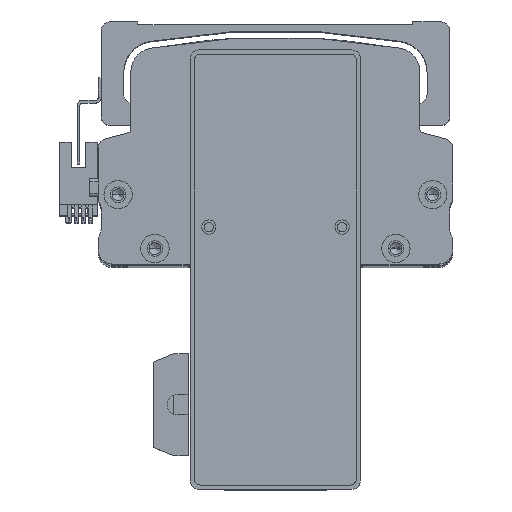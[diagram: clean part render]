
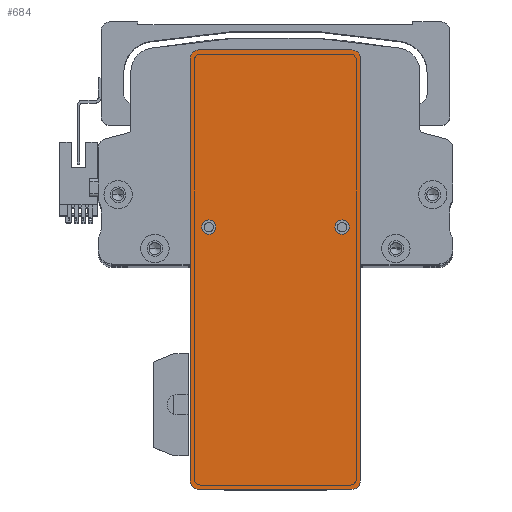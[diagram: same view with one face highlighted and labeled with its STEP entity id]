
A CAD part, top view. The second image highlights one B-rep face of the part: STEP entity #684.
In plain terms, the highlighted planar face has unit normal (0, 0, 1) as drawn and (0, 0, -1) by its records, which use the part's own axes.
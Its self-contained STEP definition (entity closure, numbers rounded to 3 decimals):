
#56 = EDGE_CURVE ( 'NONE', #336, #32804, #69416, .T. ) ;
#171 = DIRECTION ( 'NONE',  ( 0., -1., 0. ) ) ;
#336 = VERTEX_POINT ( 'NONE', #46033 ) ;
#469 = DIRECTION ( 'NONE',  ( -1., 0., 0. ) ) ;
#570 = CARTESIAN_POINT ( 'NONE',  ( 74.5, -27., 0. ) ) ;
#684 = ADVANCED_FACE ( 'NONE', ( #32865, #14717, #63493 ), #61702, .F. ) ;
#1523 = ORIENTED_EDGE ( 'NONE', *, *, #45754, .F. ) ;
#2086 = VERTEX_POINT ( 'NONE', #26445 ) ;
#2225 = LINE ( 'NONE', #62236, #65272 ) ;
#2693 = ORIENTED_EDGE ( 'NONE', *, *, #63459, .T. ) ;
#3007 = CARTESIAN_POINT ( 'NONE',  ( 74.5, 30., 0. ) ) ;
#3571 = ORIENTED_EDGE ( 'NONE', *, *, #68962, .F. ) ;
#4002 = AXIS2_PLACEMENT_3D ( 'NONE', #570, #43257, #6707 ) ;
#4434 = VECTOR ( 'NONE', #171, 1000. ) ;
#6707 = DIRECTION ( 'NONE',  ( 1., 0., 0. ) ) ;
#7634 = CARTESIAN_POINT ( 'NONE',  ( 15., 23.5, 0. ) ) ;
#9422 = DIRECTION ( 'NONE',  ( 0., 1., 0. ) ) ;
#11229 = VERTEX_POINT ( 'NONE', #52020 ) ;
#12106 = CARTESIAN_POINT ( 'NONE',  ( -74.5, -30., 0. ) ) ;
#12458 = VERTEX_POINT ( 'NONE', #48224 ) ;
#13441 = ORIENTED_EDGE ( 'NONE', *, *, #75742, .T. ) ;
#13543 = ORIENTED_EDGE ( 'NONE', *, *, #65181, .T. ) ;
#13624 = EDGE_LOOP ( 'NONE', ( #31258, #3571 ) ) ;
#13753 = DIRECTION ( 'NONE',  ( -1., 0., 0. ) ) ;
#14717 = FACE_BOUND ( 'NONE', #59325, .T. ) ;
#15706 = EDGE_CURVE ( 'NONE', #40318, #70736, #2225, .T. ) ;
#17341 = CARTESIAN_POINT ( 'NONE',  ( -74.5, -27., 0. ) ) ;
#18211 = VECTOR ( 'NONE', #9422, 1000. ) ;
#19227 = CARTESIAN_POINT ( 'NONE',  ( 0., 0., 0. ) ) ;
#19341 = CIRCLE ( 'NONE', #41474, 2.5 ) ;
#19707 = AXIS2_PLACEMENT_3D ( 'NONE', #17341, #60087, #23477 ) ;
#21445 = CARTESIAN_POINT ( 'NONE',  ( 77.5, -30., 0. ) ) ;
#21449 = EDGE_LOOP ( 'NONE', ( #46285, #2693, #60829, #13441, #72748, #13543, #40807, #36988 ) ) ;
#21573 = VERTEX_POINT ( 'NONE', #66487 ) ;
#22162 = CARTESIAN_POINT ( 'NONE',  ( 12.5, -23.5, 0. ) ) ;
#23033 = CIRCLE ( 'NONE', #4002, 3. ) ;
#23477 = DIRECTION ( 'NONE',  ( 1., 0., 0. ) ) ;
#24179 = CARTESIAN_POINT ( 'NONE',  ( 15., -23.5, 0. ) ) ;
#24672 = CARTESIAN_POINT ( 'NONE',  ( -77.5, -30., 0. ) ) ;
#25318 = DIRECTION ( 'NONE',  ( 1., 0., 0. ) ) ;
#26445 = CARTESIAN_POINT ( 'NONE',  ( 17.5, -23.5, 0. ) ) ;
#27634 = DIRECTION ( 'NONE',  ( 0., 0., -1. ) ) ;
#28335 = CARTESIAN_POINT ( 'NONE',  ( 15., -23.5, 0. ) ) ;
#28459 = DIRECTION ( 'NONE',  ( 0., 0., -1. ) ) ;
#30341 = DIRECTION ( 'NONE',  ( -1., 0., 0. ) ) ;
#30455 = CARTESIAN_POINT ( 'NONE',  ( 74.5, -30., 0. ) ) ;
#31258 = ORIENTED_EDGE ( 'NONE', *, *, #64061, .F. ) ;
#32082 = EDGE_CURVE ( 'NONE', #51407, #11229, #34397, .T. ) ;
#32804 = VERTEX_POINT ( 'NONE', #40553 ) ;
#32865 = FACE_BOUND ( 'NONE', #13624, .T. ) ;
#32947 = AXIS2_PLACEMENT_3D ( 'NONE', #24179, #66994, #30341 ) ;
#33351 = CIRCLE ( 'NONE', #46433, 3. ) ;
#34397 = LINE ( 'NONE', #21445, #18211 ) ;
#34453 = DIRECTION ( 'NONE',  ( -1., 0., 0. ) ) ;
#36988 = ORIENTED_EDGE ( 'NONE', *, *, #50565, .T. ) ;
#36999 = DIRECTION ( 'NONE',  ( 0., 0., -1. ) ) ;
#39788 = CARTESIAN_POINT ( 'NONE',  ( 77.5, 30., 0. ) ) ;
#40318 = VERTEX_POINT ( 'NONE', #12106 ) ;
#40553 = CARTESIAN_POINT ( 'NONE',  ( -77.5, -27., 0. ) ) ;
#40807 = ORIENTED_EDGE ( 'NONE', *, *, #42012, .F. ) ;
#41474 = AXIS2_PLACEMENT_3D ( 'NONE', #28335, #71117, #34453 ) ;
#42012 = EDGE_CURVE ( 'NONE', #78627, #70418, #71763, .T. ) ;
#43257 = DIRECTION ( 'NONE',  ( 0., 0., -1. ) ) ;
#44066 = DIRECTION ( 'NONE',  ( 1., 0., 0. ) ) ;
#45754 = EDGE_CURVE ( 'NONE', #2086, #64754, #54502, .T. ) ;
#46033 = CARTESIAN_POINT ( 'NONE',  ( -77.5, 27., 0. ) ) ;
#46247 = AXIS2_PLACEMENT_3D ( 'NONE', #73639, #36999, #469 ) ;
#46285 = ORIENTED_EDGE ( 'NONE', *, *, #32082, .F. ) ;
#46433 = AXIS2_PLACEMENT_3D ( 'NONE', #65077, #28459, #71254 ) ;
#48224 = CARTESIAN_POINT ( 'NONE',  ( 12.5, 23.5, 0. ) ) ;
#49799 = CARTESIAN_POINT ( 'NONE',  ( 77.5, -27., 0. ) ) ;
#50369 = DIRECTION ( 'NONE',  ( 0., 0., -1. ) ) ;
#50565 = EDGE_CURVE ( 'NONE', #78627, #11229, #33351, .T. ) ;
#51407 = VERTEX_POINT ( 'NONE', #49799 ) ;
#52020 = CARTESIAN_POINT ( 'NONE',  ( 77.5, 27., 0. ) ) ;
#53333 = AXIS2_PLACEMENT_3D ( 'NONE', #19227, #61955, #25318 ) ;
#54502 = CIRCLE ( 'NONE', #32947, 2.5 ) ;
#55555 = VECTOR ( 'NONE', #64378, 1000. ) ;
#55858 = CIRCLE ( 'NONE', #76275, 3. ) ;
#57501 = CARTESIAN_POINT ( 'NONE',  ( -74.5, 30., 0. ) ) ;
#58012 = CIRCLE ( 'NONE', #60847, 2.5 ) ;
#59325 = EDGE_LOOP ( 'NONE', ( #65731, #1523 ) ) ;
#60087 = DIRECTION ( 'NONE',  ( 0., 0., -1. ) ) ;
#60829 = ORIENTED_EDGE ( 'NONE', *, *, #15706, .F. ) ;
#60847 = AXIS2_PLACEMENT_3D ( 'NONE', #7634, #50369, #13753 ) ;
#61702 = PLANE ( 'NONE',  #53333 ) ;
#61955 = DIRECTION ( 'NONE',  ( 0., 0., 1. ) ) ;
#62014 = CIRCLE ( 'NONE', #46247, 2.5 ) ;
#62236 = CARTESIAN_POINT ( 'NONE',  ( 77.5, -30., 0. ) ) ;
#63459 = EDGE_CURVE ( 'NONE', #51407, #70736, #23033, .T. ) ;
#63493 = FACE_OUTER_BOUND ( 'NONE', #21449, .T. ) ;
#64061 = EDGE_CURVE ( 'NONE', #12458, #21573, #58012, .T. ) ;
#64261 = CARTESIAN_POINT ( 'NONE',  ( -74.5, 27., 0. ) ) ;
#64378 = DIRECTION ( 'NONE',  ( -1., 0., 0. ) ) ;
#64754 = VERTEX_POINT ( 'NONE', #22162 ) ;
#65077 = CARTESIAN_POINT ( 'NONE',  ( 74.5, 27., 0. ) ) ;
#65181 = EDGE_CURVE ( 'NONE', #336, #70418, #55858, .T. ) ;
#65272 = VECTOR ( 'NONE', #44066, 1000. ) ;
#65731 = ORIENTED_EDGE ( 'NONE', *, *, #65811, .F. ) ;
#65811 = EDGE_CURVE ( 'NONE', #64754, #2086, #19341, .T. ) ;
#66487 = CARTESIAN_POINT ( 'NONE',  ( 17.5, 23.5, 0. ) ) ;
#66994 = DIRECTION ( 'NONE',  ( 0., 0., -1. ) ) ;
#68962 = EDGE_CURVE ( 'NONE', #21573, #12458, #62014, .T. ) ;
#69416 = LINE ( 'NONE', #24672, #4434 ) ;
#70411 = DIRECTION ( 'NONE',  ( 1., 0., 0. ) ) ;
#70418 = VERTEX_POINT ( 'NONE', #57501 ) ;
#70736 = VERTEX_POINT ( 'NONE', #30455 ) ;
#71117 = DIRECTION ( 'NONE',  ( 0., 0., -1. ) ) ;
#71254 = DIRECTION ( 'NONE',  ( 1., 0., 0. ) ) ;
#71763 = LINE ( 'NONE', #39788, #55555 ) ;
#72748 = ORIENTED_EDGE ( 'NONE', *, *, #56, .F. ) ;
#72809 = CIRCLE ( 'NONE', #19707, 3. ) ;
#73639 = CARTESIAN_POINT ( 'NONE',  ( 15., 23.5, 0. ) ) ;
#75742 = EDGE_CURVE ( 'NONE', #40318, #32804, #72809, .T. ) ;
#76275 = AXIS2_PLACEMENT_3D ( 'NONE', #64261, #27634, #70411 ) ;
#78627 = VERTEX_POINT ( 'NONE', #3007 ) ;
